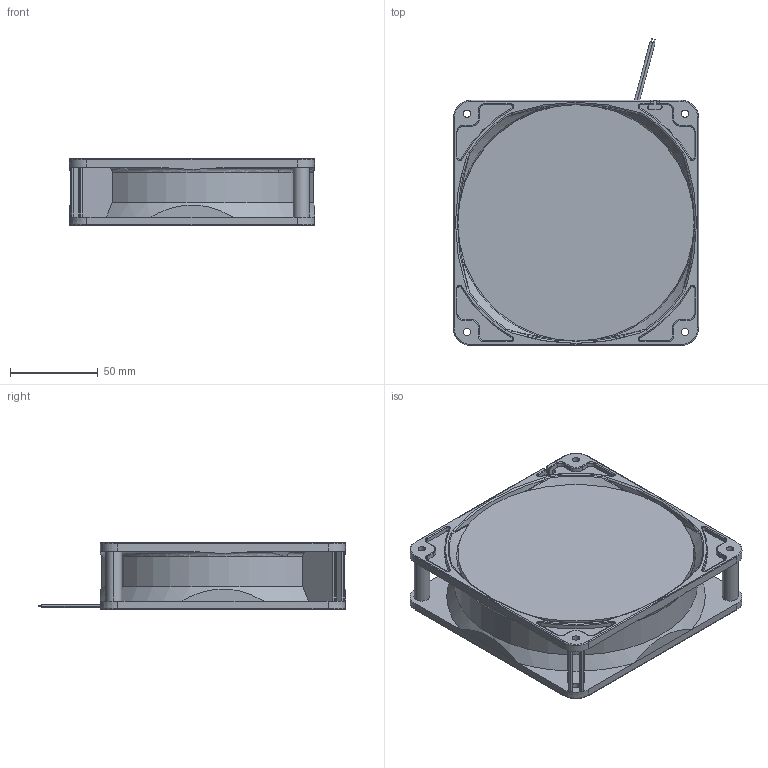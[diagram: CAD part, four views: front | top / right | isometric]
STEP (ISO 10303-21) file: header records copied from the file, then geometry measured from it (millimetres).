
FILE_DESCRIPTION((''),'2;1');
FILE_NAME('0','2026-07-23T17:27:37',('pc'),(''),'CREO PARAMETRIC BY PTC INC, 2018050','CREO PARAMETRIC BY PTC INC, 2018050','');
FILE_SCHEMA(('CONFIG_CONTROL_DESIGN','GEOMETRIC_VALIDATION_PROPERTIES_MIM'));
Length unit declared in the file: millimetre
Products named in the file (1): 0
Bounding box: 140 x 175.37 x 38 mm (x, y, z)
Volume: 568067.4 mm3; surface area: 82582.6 mm2
Topology: 1 solids, 1 shells, 459 faces, 1201 edges, 755 vertices
Faces by surface type: cylinder 144, plane 130, bspline 83, torus 58, cone 44
Entity records: 23061 total; most frequent: CARTESIAN_POINT 8802, ORIENTED_EDGE 2402, DIRECTION 1919, PRESENTATION_STYLE_ASSIGNMENT 1202, STYLED_ITEM 1202, CURVE_STYLE 1201, EDGE_CURVE 1201, AXIS2_PLACEMENT_3D 759
